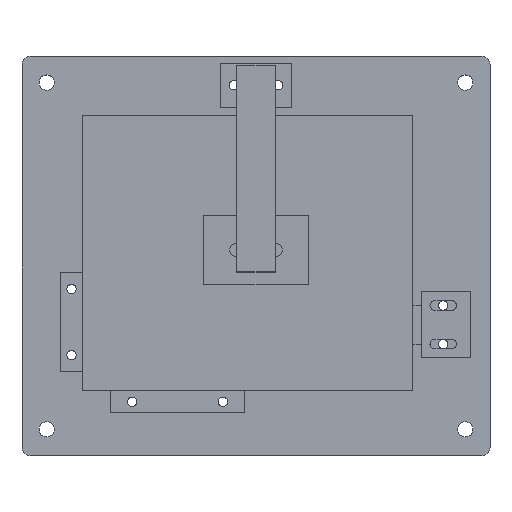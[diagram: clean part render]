
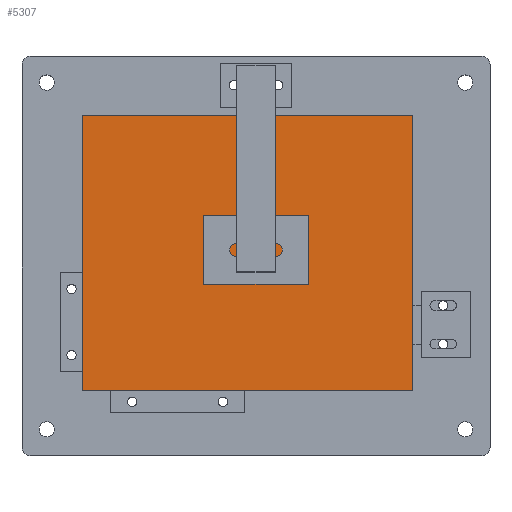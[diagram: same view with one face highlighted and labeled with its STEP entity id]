
A CAD part, top view. The second image highlights one B-rep face of the part: STEP entity #5307.
In plain terms, the highlighted planar face has unit normal (0, 0, 1).
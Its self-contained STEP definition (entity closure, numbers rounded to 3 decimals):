
#4993 = VERTEX_POINT('',#4994);
#4994 = CARTESIAN_POINT('',(-60.,-50.,1.6));
#5001 = PLANE('',#5002);
#5002 = AXIS2_PLACEMENT_3D('',#5003,#5004,#5005);
#5003 = CARTESIAN_POINT('',(-60.,-50.,0.));
#5004 = DIRECTION('',(1.,0.,-0.));
#5005 = DIRECTION('',(0.,0.,1.));
#5013 = PLANE('',#5014);
#5014 = AXIS2_PLACEMENT_3D('',#5015,#5016,#5017);
#5015 = CARTESIAN_POINT('',(-60.,-50.,0.));
#5016 = DIRECTION('',(-0.,1.,0.));
#5017 = DIRECTION('',(0.,0.,1.));
#5054 = VERTEX_POINT('',#5055);
#5055 = CARTESIAN_POINT('',(-60.,50.,1.6));
#5069 = PLANE('',#5070);
#5070 = AXIS2_PLACEMENT_3D('',#5071,#5072,#5073);
#5071 = CARTESIAN_POINT('',(-60.,50.,0.));
#5072 = DIRECTION('',(-0.,1.,0.));
#5073 = DIRECTION('',(0.,0.,1.));
#5081 = EDGE_CURVE('',#4993,#5054,#5082,.T.);
#5082 = SURFACE_CURVE('',#5083,(#5087,#5094),.PCURVE_S1.);
#5083 = LINE('',#5084,#5085);
#5084 = CARTESIAN_POINT('',(-60.,-50.,1.6));
#5085 = VECTOR('',#5086,1.);
#5086 = DIRECTION('',(-0.,1.,0.));
#5087 = PCURVE('',#5001,#5088);
#5088 = DEFINITIONAL_REPRESENTATION('',(#5089),#5093);
#5089 = LINE('',#5090,#5091);
#5090 = CARTESIAN_POINT('',(1.6,0.));
#5091 = VECTOR('',#5092,1.);
#5092 = DIRECTION('',(0.,-1.));
#5093 = ( GEOMETRIC_REPRESENTATION_CONTEXT(2) 
PARAMETRIC_REPRESENTATION_CONTEXT() REPRESENTATION_CONTEXT('2D SPACE',''
  ) );
#5094 = PCURVE('',#5095,#5100);
#5095 = PLANE('',#5096);
#5096 = AXIS2_PLACEMENT_3D('',#5097,#5098,#5099);
#5097 = CARTESIAN_POINT('',(-60.,-50.,1.6));
#5098 = DIRECTION('',(0.,0.,1.));
#5099 = DIRECTION('',(1.,0.,-0.));
#5100 = DEFINITIONAL_REPRESENTATION('',(#5101),#5105);
#5101 = LINE('',#5102,#5103);
#5102 = CARTESIAN_POINT('',(0.,0.));
#5103 = VECTOR('',#5104,1.);
#5104 = DIRECTION('',(0.,1.));
#5105 = ( GEOMETRIC_REPRESENTATION_CONTEXT(2) 
PARAMETRIC_REPRESENTATION_CONTEXT() REPRESENTATION_CONTEXT('2D SPACE',''
  ) );
#5113 = VERTEX_POINT('',#5114);
#5114 = CARTESIAN_POINT('',(60.,-50.,1.6));
#5121 = PLANE('',#5122);
#5122 = AXIS2_PLACEMENT_3D('',#5123,#5124,#5125);
#5123 = CARTESIAN_POINT('',(60.,-50.,0.));
#5124 = DIRECTION('',(1.,0.,-0.));
#5125 = DIRECTION('',(0.,0.,1.));
#5164 = VERTEX_POINT('',#5165);
#5165 = CARTESIAN_POINT('',(60.,50.,1.6));
#5186 = EDGE_CURVE('',#5113,#5164,#5187,.T.);
#5187 = SURFACE_CURVE('',#5188,(#5192,#5199),.PCURVE_S1.);
#5188 = LINE('',#5189,#5190);
#5189 = CARTESIAN_POINT('',(60.,-50.,1.6));
#5190 = VECTOR('',#5191,1.);
#5191 = DIRECTION('',(-0.,1.,0.));
#5192 = PCURVE('',#5121,#5193);
#5193 = DEFINITIONAL_REPRESENTATION('',(#5194),#5198);
#5194 = LINE('',#5195,#5196);
#5195 = CARTESIAN_POINT('',(1.6,0.));
#5196 = VECTOR('',#5197,1.);
#5197 = DIRECTION('',(0.,-1.));
#5198 = ( GEOMETRIC_REPRESENTATION_CONTEXT(2) 
PARAMETRIC_REPRESENTATION_CONTEXT() REPRESENTATION_CONTEXT('2D SPACE',''
  ) );
#5199 = PCURVE('',#5095,#5200);
#5200 = DEFINITIONAL_REPRESENTATION('',(#5201),#5205);
#5201 = LINE('',#5202,#5203);
#5202 = CARTESIAN_POINT('',(120.,0.));
#5203 = VECTOR('',#5204,1.);
#5204 = DIRECTION('',(0.,1.));
#5205 = ( GEOMETRIC_REPRESENTATION_CONTEXT(2) 
PARAMETRIC_REPRESENTATION_CONTEXT() REPRESENTATION_CONTEXT('2D SPACE',''
  ) );
#5232 = EDGE_CURVE('',#4993,#5113,#5233,.T.);
#5233 = SURFACE_CURVE('',#5234,(#5238,#5245),.PCURVE_S1.);
#5234 = LINE('',#5235,#5236);
#5235 = CARTESIAN_POINT('',(-60.,-50.,1.6));
#5236 = VECTOR('',#5237,1.);
#5237 = DIRECTION('',(1.,0.,-0.));
#5238 = PCURVE('',#5013,#5239);
#5239 = DEFINITIONAL_REPRESENTATION('',(#5240),#5244);
#5240 = LINE('',#5241,#5242);
#5241 = CARTESIAN_POINT('',(1.6,0.));
#5242 = VECTOR('',#5243,1.);
#5243 = DIRECTION('',(0.,1.));
#5244 = ( GEOMETRIC_REPRESENTATION_CONTEXT(2) 
PARAMETRIC_REPRESENTATION_CONTEXT() REPRESENTATION_CONTEXT('2D SPACE',''
  ) );
#5245 = PCURVE('',#5095,#5246);
#5246 = DEFINITIONAL_REPRESENTATION('',(#5247),#5251);
#5247 = LINE('',#5248,#5249);
#5248 = CARTESIAN_POINT('',(0.,0.));
#5249 = VECTOR('',#5250,1.);
#5250 = DIRECTION('',(1.,0.));
#5251 = ( GEOMETRIC_REPRESENTATION_CONTEXT(2) 
PARAMETRIC_REPRESENTATION_CONTEXT() REPRESENTATION_CONTEXT('2D SPACE',''
  ) );
#5279 = EDGE_CURVE('',#5054,#5164,#5280,.T.);
#5280 = SURFACE_CURVE('',#5281,(#5285,#5292),.PCURVE_S1.);
#5281 = LINE('',#5282,#5283);
#5282 = CARTESIAN_POINT('',(-60.,50.,1.6));
#5283 = VECTOR('',#5284,1.);
#5284 = DIRECTION('',(1.,0.,-0.));
#5285 = PCURVE('',#5069,#5286);
#5286 = DEFINITIONAL_REPRESENTATION('',(#5287),#5291);
#5287 = LINE('',#5288,#5289);
#5288 = CARTESIAN_POINT('',(1.6,0.));
#5289 = VECTOR('',#5290,1.);
#5290 = DIRECTION('',(0.,1.));
#5291 = ( GEOMETRIC_REPRESENTATION_CONTEXT(2) 
PARAMETRIC_REPRESENTATION_CONTEXT() REPRESENTATION_CONTEXT('2D SPACE',''
  ) );
#5292 = PCURVE('',#5095,#5293);
#5293 = DEFINITIONAL_REPRESENTATION('',(#5294),#5298);
#5294 = LINE('',#5295,#5296);
#5295 = CARTESIAN_POINT('',(0.,100.));
#5296 = VECTOR('',#5297,1.);
#5297 = DIRECTION('',(1.,0.));
#5298 = ( GEOMETRIC_REPRESENTATION_CONTEXT(2) 
PARAMETRIC_REPRESENTATION_CONTEXT() REPRESENTATION_CONTEXT('2D SPACE',''
  ) );
#5307 = ADVANCED_FACE('',(#5308),#5095,.T.);
#5308 = FACE_BOUND('',#5309,.T.);
#5309 = EDGE_LOOP('',(#5310,#5311,#5312,#5313));
#5310 = ORIENTED_EDGE('',*,*,#5081,.F.);
#5311 = ORIENTED_EDGE('',*,*,#5232,.T.);
#5312 = ORIENTED_EDGE('',*,*,#5186,.T.);
#5313 = ORIENTED_EDGE('',*,*,#5279,.F.);
